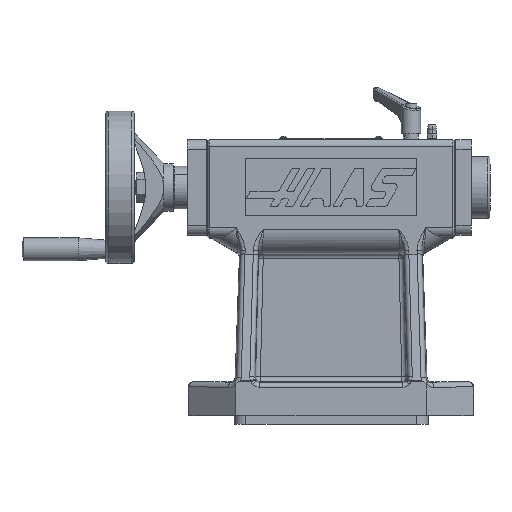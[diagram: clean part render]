
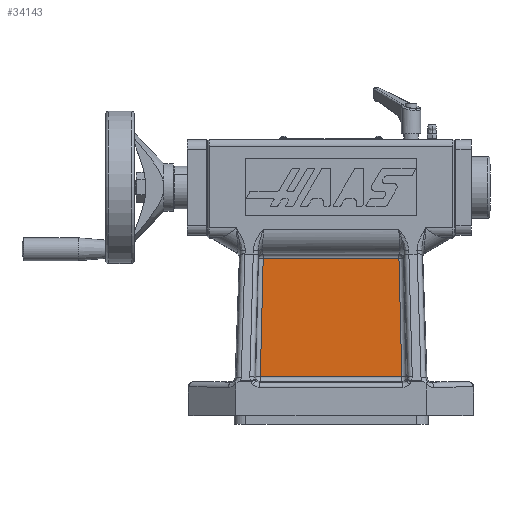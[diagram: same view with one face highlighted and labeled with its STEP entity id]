
A CAD part, top view. The second image highlights one B-rep face of the part: STEP entity #34143.
In plain terms, the highlighted planar face has unit normal (0, 0, 1).
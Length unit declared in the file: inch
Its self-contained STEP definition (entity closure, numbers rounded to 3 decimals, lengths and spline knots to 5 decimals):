
#36 = FACE_OUTER_BOUND ( 'NONE', #17744, .T. ) ;
#378 = ORIENTED_EDGE ( 'NONE', *, *, #20600, .T. ) ;
#2004 = VECTOR ( 'NONE', #14752, 39.37008 ) ;
#2963 = CARTESIAN_POINT ( 'NONE',  ( 1.78292, -1.87464, 0.3 ) ) ;
#3393 = ORIENTED_EDGE ( 'NONE', *, *, #18975, .T. ) ;
#3819 = LINE ( 'NONE', #34868, #17634 ) ;
#5150 = ORIENTED_EDGE ( 'NONE', *, *, #22526, .T. ) ;
#5158 = VERTEX_POINT ( 'NONE', #2963 ) ;
#9043 = AXIS2_PLACEMENT_3D ( 'NONE', #28659, #14319, #25833 ) ;
#9343 = CARTESIAN_POINT ( 'NONE',  ( -1.86088, -5.10197, 0.3 ) ) ;
#9811 = CARTESIAN_POINT ( 'NONE',  ( 1.85784, -4.97616, 0.3 ) ) ;
#11210 = CARTESIAN_POINT ( 'NONE',  ( -1.78292, -1.87464, 0.3 ) ) ;
#11781 = LINE ( 'NONE', #9343, #2004 ) ;
#12066 = DIRECTION ( 'NONE',  ( -0.024, 1., 0. ) ) ;
#14099 = CARTESIAN_POINT ( 'NONE',  ( -1.90282, -1.87464, 0.3 ) ) ;
#14319 = DIRECTION ( 'NONE',  ( 0., 0., -1. ) ) ;
#14600 = ORIENTED_EDGE ( 'NONE', *, *, #24189, .T. ) ;
#14629 = VERTEX_POINT ( 'NONE', #9811 ) ;
#14752 = DIRECTION ( 'NONE',  ( -0.024, -1., 0. ) ) ;
#16988 = PLANE ( 'NONE',  #9043 ) ;
#17634 = VECTOR ( 'NONE', #12066, 39.37008 ) ;
#17744 = EDGE_LOOP ( 'NONE', ( #14600, #378, #3393, #5150 ) ) ;
#18975 = EDGE_CURVE ( 'Defeatured_0_78+Defeatured_0_102+Defeatured_0_107+Defeatured_0_101', #23913, #32536, #11781, .T. ) ;
#20600 = EDGE_CURVE ( 'Defeatured_0_78+Defeatured_0_107+Defeatured_0_106+Defeatured_0_102', #5158, #23913, #36565, .T. ) ;
#22526 = EDGE_CURVE ( 'Defeatured_0_78+Defeatured_0_101+Defeatured_0_102+Defeatured_0_106', #32536, #14629, #27478, .T. ) ;
#23133 = VECTOR ( 'NONE', #31451, 39.37008 ) ;
#23271 = CARTESIAN_POINT ( 'NONE',  ( -1.85784, -4.97616, 0.3 ) ) ;
#23913 = VERTEX_POINT ( 'NONE', #11210 ) ;
#24189 = EDGE_CURVE ( 'Defeatured_0_78+Defeatured_0_106+Defeatured_0_101+Defeatured_0_107', #14629, #5158, #3819, .T. ) ;
#24483 = CARTESIAN_POINT ( 'NONE',  ( -1.98369, -4.97616, 0.3 ) ) ;
#25833 = DIRECTION ( 'NONE',  ( 1., 0., 0. ) ) ;
#27478 = LINE ( 'NONE', #24483, #34991 ) ;
#28659 = CARTESIAN_POINT ( 'NONE',  ( -1.98369, -5.099, 0.3 ) ) ;
#31451 = DIRECTION ( 'NONE',  ( -1., 0., 0. ) ) ;
#32536 = VERTEX_POINT ( 'NONE', #23271 ) ;
#34143 = ADVANCED_FACE ( 'Defeatured_0_78', ( #36 ), #16988, .F. ) ;
#34868 = CARTESIAN_POINT ( 'NONE',  ( 1.78002, -1.75476, 0.3 ) ) ;
#34991 = VECTOR ( 'NONE', #35977, 39.37008 ) ;
#35977 = DIRECTION ( 'NONE',  ( 1., 0., 0. ) ) ;
#36565 = LINE ( 'NONE', #14099, #23133 ) ;
